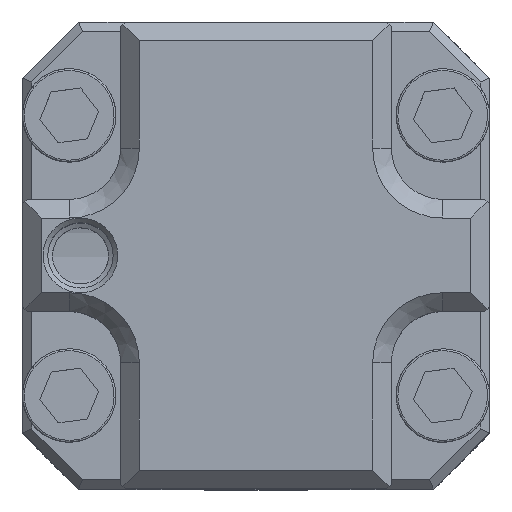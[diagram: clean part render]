
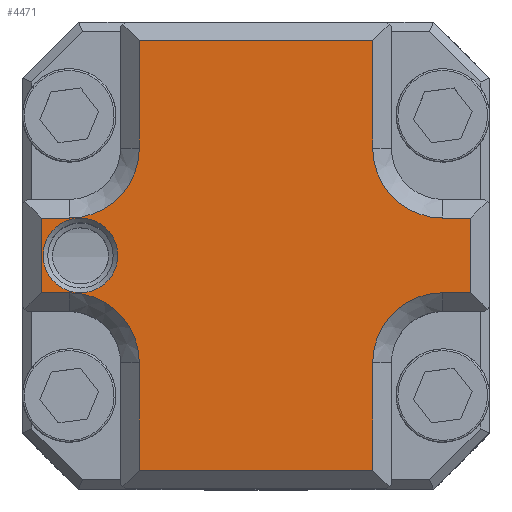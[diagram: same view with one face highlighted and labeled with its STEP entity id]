
A CAD part, top view. The second image highlights one B-rep face of the part: STEP entity #4471.
In plain terms, the highlighted planar face has unit normal (0, 0, 1).
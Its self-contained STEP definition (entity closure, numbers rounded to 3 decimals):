
#3936=FACE_BOUND('',#5686,.T.);
#3937=FACE_BOUND('',#5687,.T.);
#4471=ADVANCED_FACE('',(#3936,#3937),#4990,.F.);
#4990=PLANE('',#12539);
#5686=EDGE_LOOP('',(#6849,#6850,#6851,#6852,#6853,#6854,#6855,#6856,#6857,
#6858,#6859,#6860,#6861,#6862,#6863,#6864));
#5687=EDGE_LOOP('',(#6865));
#6358=CIRCLE('',#12500,7.5);
#6360=CIRCLE('',#12503,7.5);
#6362=CIRCLE('',#12506,7.5);
#6363=CIRCLE('',#12508,7.5);
#6368=CIRCLE('',#12529,4.);
#6849=ORIENTED_EDGE('',*,*,#9869,.F.);
#6850=ORIENTED_EDGE('',*,*,#9898,.F.);
#6851=ORIENTED_EDGE('',*,*,#9941,.F.);
#6852=ORIENTED_EDGE('',*,*,#9893,.F.);
#6853=ORIENTED_EDGE('',*,*,#9865,.F.);
#6854=ORIENTED_EDGE('',*,*,#9905,.F.);
#6855=ORIENTED_EDGE('',*,*,#9942,.F.);
#6856=ORIENTED_EDGE('',*,*,#9907,.F.);
#6857=ORIENTED_EDGE('',*,*,#9861,.F.);
#6858=ORIENTED_EDGE('',*,*,#9857,.F.);
#6859=ORIENTED_EDGE('',*,*,#9926,.F.);
#6860=ORIENTED_EDGE('',*,*,#9852,.F.);
#6861=ORIENTED_EDGE('',*,*,#9871,.F.);
#6862=ORIENTED_EDGE('',*,*,#9943,.T.);
#6863=ORIENTED_EDGE('',*,*,#9944,.F.);
#6864=ORIENTED_EDGE('',*,*,#9938,.F.);
#6865=ORIENTED_EDGE('',*,*,#9918,.F.);
#9049=VERTEX_POINT('',#15767);
#9050=VERTEX_POINT('',#15768);
#9054=VERTEX_POINT('',#15778);
#9055=VERTEX_POINT('',#15779);
#9057=VERTEX_POINT('',#15786);
#9060=VERTEX_POINT('',#15793);
#9061=VERTEX_POINT('',#15795);
#9064=VERTEX_POINT('',#15802);
#9065=VERTEX_POINT('',#15804);
#9066=VERTEX_POINT('',#15808);
#9078=VERTEX_POINT('',#15851);
#9081=VERTEX_POINT('',#15859);
#9087=VERTEX_POINT('',#15874);
#9088=VERTEX_POINT('',#15879);
#9096=VERTEX_POINT('',#15901);
#9106=VERTEX_POINT('',#15939);
#9108=VERTEX_POINT('',#15947);
#9852=EDGE_CURVE('',#9049,#9050,#11016,.T.);
#9857=EDGE_CURVE('',#9054,#9055,#11021,.T.);
#9861=EDGE_CURVE('',#9055,#9057,#6358,.T.);
#9865=EDGE_CURVE('',#9060,#9061,#6360,.T.);
#9869=EDGE_CURVE('',#9064,#9065,#6362,.T.);
#9871=EDGE_CURVE('',#9066,#9049,#6363,.T.);
#9893=EDGE_CURVE('',#9061,#9078,#11049,.T.);
#9898=EDGE_CURVE('',#9081,#9064,#11054,.T.);
#9905=EDGE_CURVE('',#9087,#9060,#11061,.T.);
#9907=EDGE_CURVE('',#9057,#9088,#11063,.T.);
#9918=EDGE_CURVE('',#9096,#9096,#6368,.T.);
#9926=EDGE_CURVE('',#9050,#9054,#11079,.T.);
#9938=EDGE_CURVE('',#9065,#9106,#11091,.T.);
#9941=EDGE_CURVE('',#9078,#9081,#11094,.T.);
#9942=EDGE_CURVE('',#9088,#9087,#11095,.T.);
#9943=EDGE_CURVE('',#9066,#9108,#11096,.T.);
#9944=EDGE_CURVE('',#9106,#9108,#11097,.T.);
#11016=LINE('',#15766,#11762);
#11021=LINE('',#15777,#11767);
#11049=LINE('',#15850,#11795);
#11054=LINE('',#15860,#11800);
#11061=LINE('',#15875,#11807);
#11063=LINE('',#15878,#11809);
#11079=LINE('',#15916,#11825);
#11091=LINE('',#15938,#11837);
#11094=LINE('',#15944,#11840);
#11095=LINE('',#15945,#11841);
#11096=LINE('',#15946,#11842);
#11097=LINE('',#15948,#11843);
#11762=VECTOR('',#13349,1.);
#11767=VECTOR('',#13356,1.);
#11795=VECTOR('',#13426,1.);
#11800=VECTOR('',#13433,1.);
#11807=VECTOR('',#13444,1.);
#11809=VECTOR('',#13448,1.);
#11825=VECTOR('',#13482,1.);
#11837=VECTOR('',#13504,1.);
#11840=VECTOR('',#13509,1.);
#11841=VECTOR('',#13510,1.);
#11842=VECTOR('',#13511,1.);
#11843=VECTOR('',#13512,1.);
#12500=AXIS2_PLACEMENT_3D('',#15785,#13362,#13363);
#12503=AXIS2_PLACEMENT_3D('',#15794,#13370,#13371);
#12506=AXIS2_PLACEMENT_3D('',#15803,#13378,#13379);
#12508=AXIS2_PLACEMENT_3D('',#15807,#13383,#13384);
#12529=AXIS2_PLACEMENT_3D('',#15900,#13467,#13468);
#12539=AXIS2_PLACEMENT_3D('',#15949,#13513,#13514);
#13349=DIRECTION('',(-1.,0.,0.));
#13356=DIRECTION('',(1.,0.,0.));
#13362=DIRECTION('',(0.,0.,1.));
#13363=DIRECTION('',(-1.,0.,0.));
#13370=DIRECTION('',(0.,0.,1.));
#13371=DIRECTION('',(-1.,0.,0.));
#13378=DIRECTION('',(0.,0.,1.));
#13379=DIRECTION('',(-1.,0.,0.));
#13383=DIRECTION('',(0.,0.,1.));
#13384=DIRECTION('',(-1.,0.,0.));
#13426=DIRECTION('',(1.,0.,0.));
#13433=DIRECTION('',(-1.,0.,0.));
#13444=DIRECTION('',(0.,-1.,0.));
#13448=DIRECTION('',(0.,1.,0.));
#13467=DIRECTION('',(0.,0.,1.));
#13468=DIRECTION('',(0.,1.,0.));
#13482=DIRECTION('',(0.,1.,0.));
#13504=DIRECTION('',(0.,-1.,0.));
#13509=DIRECTION('',(0.,-1.,0.));
#13510=DIRECTION('',(1.,0.,0.));
#13511=DIRECTION('',(0.,-1.,0.));
#13512=DIRECTION('',(-1.,0.,0.));
#13513=DIRECTION('',(0.,0.,-1.));
#13514=DIRECTION('',(1.,0.,0.));
#15766=CARTESIAN_POINT('',(74.345,24.635,37.417));
#15767=CARTESIAN_POINT('',(53.164,24.635,37.417));
#15768=CARTESIAN_POINT('',(50.164,24.635,37.417));
#15777=CARTESIAN_POINT('',(74.345,32.631,37.417));
#15778=CARTESIAN_POINT('',(50.164,32.631,37.417));
#15779=CARTESIAN_POINT('',(53.164,32.631,37.417));
#15785=CARTESIAN_POINT('',(53.164,40.131,37.417));
#15786=CARTESIAN_POINT('',(60.664,40.131,37.417));
#15793=CARTESIAN_POINT('',(85.664,40.131,37.417));
#15794=CARTESIAN_POINT('',(93.164,40.131,37.417));
#15795=CARTESIAN_POINT('',(93.164,32.631,37.417));
#15802=CARTESIAN_POINT('',(93.164,24.635,37.417));
#15803=CARTESIAN_POINT('',(93.164,17.135,37.417));
#15804=CARTESIAN_POINT('',(85.664,17.135,37.417));
#15807=CARTESIAN_POINT('',(53.164,17.135,37.417));
#15808=CARTESIAN_POINT('',(60.664,17.135,37.417));
#15850=CARTESIAN_POINT('',(74.345,32.631,37.417));
#15851=CARTESIAN_POINT('',(96.164,32.631,37.417));
#15859=CARTESIAN_POINT('',(96.164,24.635,37.417));
#15860=CARTESIAN_POINT('',(74.345,24.635,37.417));
#15874=CARTESIAN_POINT('',(85.664,51.631,37.417));
#15875=CARTESIAN_POINT('',(85.664,26.957,37.417));
#15878=CARTESIAN_POINT('',(60.664,26.957,37.417));
#15879=CARTESIAN_POINT('',(60.664,51.631,37.417));
#15900=CARTESIAN_POINT('',(54.364,28.635,37.417));
#15901=CARTESIAN_POINT('',(54.364,32.635,37.417));
#15916=CARTESIAN_POINT('',(50.164,26.957,37.417));
#15938=CARTESIAN_POINT('',(85.664,26.957,37.417));
#15939=CARTESIAN_POINT('',(85.664,5.631,37.417));
#15944=CARTESIAN_POINT('',(96.164,26.957,37.417));
#15945=CARTESIAN_POINT('',(74.345,51.631,37.417));
#15946=CARTESIAN_POINT('',(60.664,13.635,37.417));
#15947=CARTESIAN_POINT('',(60.664,5.631,37.417));
#15948=CARTESIAN_POINT('',(74.345,5.631,37.417));
#15949=CARTESIAN_POINT('',(74.345,26.957,37.417));
